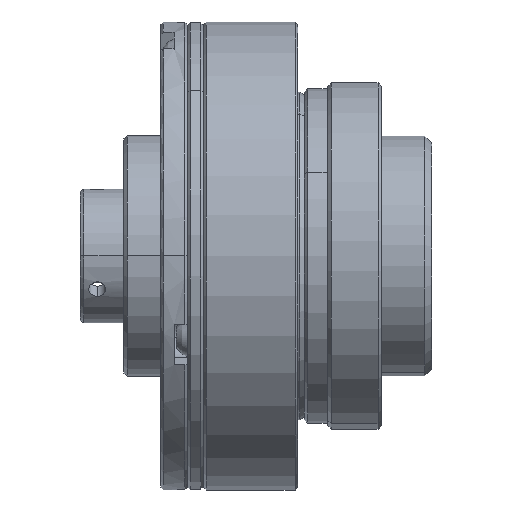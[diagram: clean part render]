
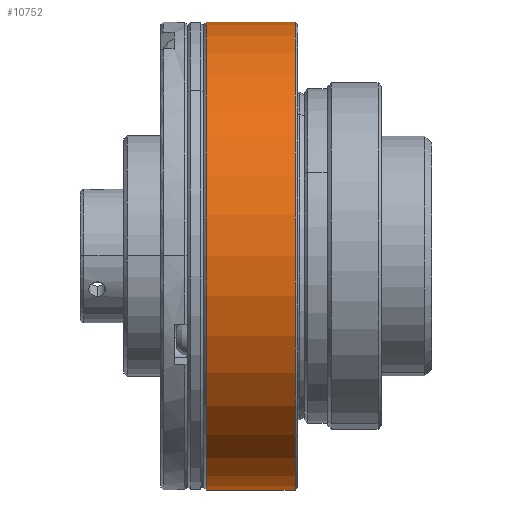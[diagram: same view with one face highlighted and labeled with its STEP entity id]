
A CAD part, top view. The second image highlights one B-rep face of the part: STEP entity #10752.
In plain terms, the highlighted cylindrical face has radius 35 mm (diameter 70 mm), a partial arc.
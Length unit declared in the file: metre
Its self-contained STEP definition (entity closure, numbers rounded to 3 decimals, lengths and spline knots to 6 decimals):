
#1318 = VECTOR ( 'NONE', #18301, 1. ) ;
#5700 = EDGE_LOOP ( 'NONE', ( #37151, #10672, #17199, #36181 ) ) ;
#7393 = EDGE_CURVE ( 'NONE', #21775, #24602, #25003, .T. ) ;
#9068 = AXIS2_PLACEMENT_3D ( 'NONE', #20377, #34911, #13022 ) ;
#10672 = ORIENTED_EDGE ( 'NONE', *, *, #46678, .T. ) ;
#10752 = ADVANCED_FACE ( 'NONE', ( #28218 ), #38401, .T. ) ;
#11169 = VERTEX_POINT ( 'NONE', #36683 ) ;
#13022 = DIRECTION ( 'NONE',  ( 0., -1., 0. ) ) ;
#15199 = LINE ( 'NONE', #44657, #1318 ) ;
#16772 = CARTESIAN_POINT ( 'NONE',  ( 0.010358, 0., 0. ) ) ;
#17199 = ORIENTED_EDGE ( 'NONE', *, *, #7393, .T. ) ;
#17236 = DIRECTION ( 'NONE',  ( -1., 0., 0. ) ) ;
#18301 = DIRECTION ( 'NONE',  ( -1., 0., 0. ) ) ;
#18887 = CARTESIAN_POINT ( 'NONE',  ( 0.0188, -0.035, 0. ) ) ;
#19959 = CARTESIAN_POINT ( 'NONE',  ( 0.010358, -0.035, 0. ) ) ;
#20377 = CARTESIAN_POINT ( 'NONE',  ( 0.0188, 0., 0. ) ) ;
#21416 = CIRCLE ( 'NONE', #29072, 0.035 ) ;
#21440 = EDGE_CURVE ( 'NONE', #11169, #45384, #21416, .T. ) ;
#21775 = VERTEX_POINT ( 'NONE', #34612 ) ;
#23236 = CARTESIAN_POINT ( 'NONE',  ( 0.0321, 0., 0. ) ) ;
#24413 = AXIS2_PLACEMENT_3D ( 'NONE', #16772, #17236, #42921 ) ;
#24602 = VERTEX_POINT ( 'NONE', #18887 ) ;
#25003 = CIRCLE ( 'NONE', #9068, 0.035 ) ;
#28218 = FACE_OUTER_BOUND ( 'NONE', #5700, .T. ) ;
#29072 = AXIS2_PLACEMENT_3D ( 'NONE', #23236, #45068, #41991 ) ;
#30904 = DIRECTION ( 'NONE',  ( -1., 0., 0. ) ) ;
#34612 = CARTESIAN_POINT ( 'NONE',  ( 0.0188, 0.035, 0. ) ) ;
#34911 = DIRECTION ( 'NONE',  ( 1., 0., 0. ) ) ;
#35496 = CARTESIAN_POINT ( 'NONE',  ( 0.0321, 0.035, 0. ) ) ;
#36181 = ORIENTED_EDGE ( 'NONE', *, *, #37409, .F. ) ;
#36683 = CARTESIAN_POINT ( 'NONE',  ( 0.0321, -0.035, 0. ) ) ;
#37151 = ORIENTED_EDGE ( 'NONE', *, *, #21440, .T. ) ;
#37200 = VECTOR ( 'NONE', #30904, 1. ) ;
#37409 = EDGE_CURVE ( 'NONE', #11169, #24602, #45823, .T. ) ;
#38401 = CYLINDRICAL_SURFACE ( 'NONE', #24413, 0.035 ) ;
#41991 = DIRECTION ( 'NONE',  ( 0., -1., 0. ) ) ;
#42921 = DIRECTION ( 'NONE',  ( 0., -1., 0. ) ) ;
#44657 = CARTESIAN_POINT ( 'NONE',  ( 0.010358, 0.035, 0. ) ) ;
#45068 = DIRECTION ( 'NONE',  ( -1., 0., 0. ) ) ;
#45384 = VERTEX_POINT ( 'NONE', #35496 ) ;
#45823 = LINE ( 'NONE', #19959, #37200 ) ;
#46678 = EDGE_CURVE ( 'NONE', #45384, #21775, #15199, .T. ) ;
